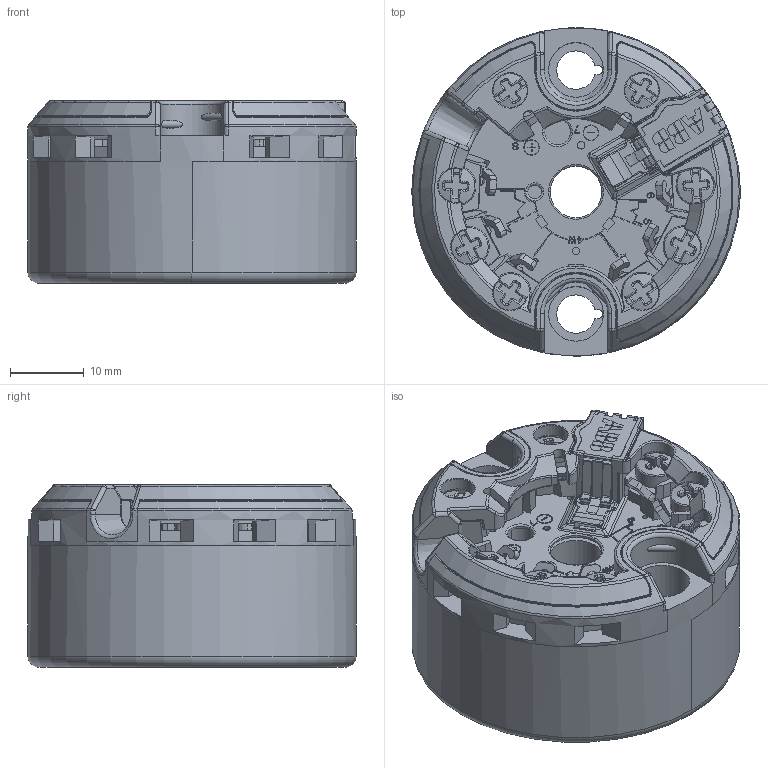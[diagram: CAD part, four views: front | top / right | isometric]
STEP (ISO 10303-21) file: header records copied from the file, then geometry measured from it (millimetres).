
FILE_DESCRIPTION((''),'2;1');
FILE_NAME('TTH300-CUSTOMER','2023-11-03T09:22:28',('DEU214042'),(''),'CREO PARAMETRIC BY PTC INC, 2020281','CREO PARAMETRIC BY PTC INC, 2020281','');
FILE_SCHEMA(('CONFIG_CONTROL_DESIGN'));
Length unit declared in the file: millimetre
Products named in the file (1): TTH300-CUSTOMER
Bounding box: 44.4 x 44.4 x 24.71 mm (x, y, z)
Surface area: 23163.2 mm2 (no closed solid volume)
Topology: 0 solids, 29 shells, 4554 faces, 11821 edges, 7460 vertices
Faces by surface type: plane 2725, cylinder 955, torus 337, bspline 286, sphere 177, cone 74
Entity records: 151291 total; most frequent: CARTESIAN_POINT 40715, ORIENTED_EDGE 23634, DIRECTION 22157, EDGE_CURVE 11817, VECTOR 8063, LINE 8063, VERTEX_POINT 7458, AXIS2_PLACEMENT_3D 7047
